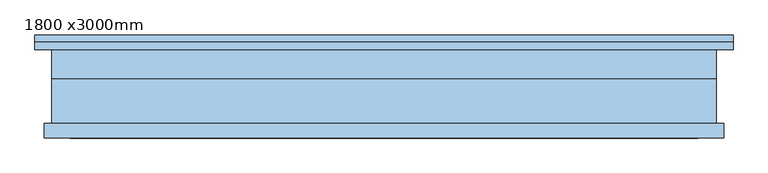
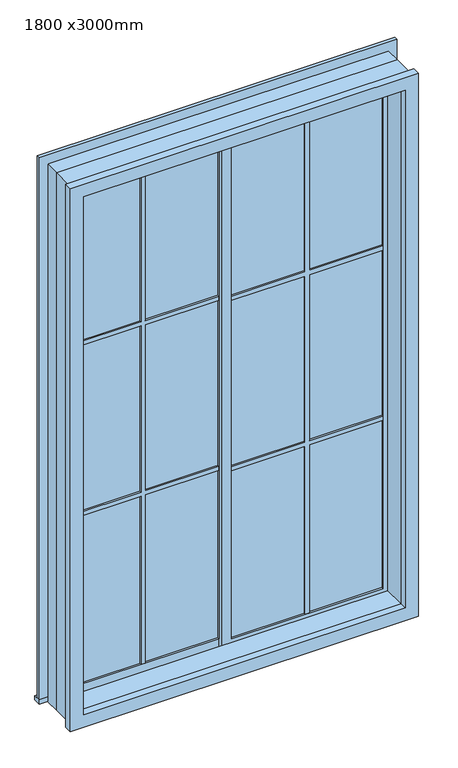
"""IFC4 building model written with IfcOpenShell, lengths in millimetres: window geometry, 推拉窗1 - 带贴面 : 1800 x3000mm."""

from ifc_helpers import new_model, si_unit, frame, origin, place, context, project, spatial, polyline, outline, extrude, source, transform, mapped, element, save


def window_1800_x3000mm_e18a544e(model_context):
    return source(origin(), model_context, "Body", "SweptSolid", [
        extrude(outline(polyline([(-815.475, 3.1265625), (-15.475, 3.1265625), (-15.475, -6.8734375), (-815.475, -6.8734375), (-815.475, 3.1265625)])), frame((0.0, 0.0, 975.0), z_axis=(0.0, 0.0, 1.0), x_axis=(1.0, 0.0, 0.0)), (0.0, 0.0, 1.0), 2850.0),
        extrude(outline(polyline([(34.525, -26.8734375), (834.525, -26.8734375), (834.525, -36.8734375), (34.525, -36.8734375), (34.525, -26.8734375)])), frame((0.0, 0.0, 975.0), z_axis=(0.0, 0.0, 1.0), x_axis=(1.0, 0.0, 0.0)), (0.0, 0.0, 1.0), 2850.0),
        extrude(outline(polyline([(2863.05, 423.525), (1935.05, 423.525), (1935.05, 34.525), (1913.05, 34.525), (1913.05, 423.525), (975.0, 423.525), (975.0, 445.525), (1913.05, 445.525), (1913.05, 834.525), (1936.95, 834.525), (1936.95, 445.525), (2863.05, 445.525), (2863.05, 834.525), (2886.95, 834.525), (2886.95, 445.525), (3825.0, 445.525), (3825.0, 423.525), (2886.95, 423.525), (2886.95, 34.525), (2863.05, 34.525), (2863.05, 423.525)])), frame((0.0, -46.8734375, 0.0), z_axis=(0.0, 1.0, 0.0), x_axis=(0.0, 0.0, 1.0)), (0.0, 0.0, 1.0), 30.0),
        extrude(outline(polyline([(3900.0, -890.475), (900.0, -890.475), (900.0, 909.525), (3900.0, 909.525), (3900.0, -890.475)]), holes=[polyline([(3845.0, 859.525), (955.0, 859.525), (955.0, -840.475), (3845.0, -840.475), (3845.0, 859.525)])]), frame((0.0, -166.8734375, 0.0), z_axis=(0.0, 1.0, 0.0), x_axis=(0.0, 0.0, 1.0)), (0.0, 0.0, 1.0), 120.0),
        extrude(outline(polyline([(975.0, -404.3625), (1913.8875, -404.3625), (1913.8875, -15.475), (1936.1125, -15.475), (1936.1125, -404.3625), (2863.8875, -404.3625), (2863.8875, -15.475), (2886.1125, -15.475), (2886.1125, -404.3625), (3825.0, -404.3625), (3825.0, -426.5875), (2886.1125, -426.5875), (2886.1125, -815.475), (2863.8875, -815.475), (2863.8875, -426.5875), (1936.1125, -426.5875), (1936.1125, -815.475), (1913.8875, -815.475), (1913.8875, -426.5875), (975.0, -426.5875), (975.0, -404.3625)])), frame((0.0, -16.8734375, 0.0), z_axis=(0.0, 1.0, 0.0), x_axis=(0.0, 0.0, 1.0)), (0.0, 0.0, 1.0), 30.0),
        extrude(outline(polyline([(925.0, 34.525), (3875.0, 34.525), (3875.0, -865.475), (925.0, -865.475), (925.0, 34.525)]), holes=[polyline([(975.0, -15.475), (975.0, -815.475), (3825.0, -815.475), (3825.0, -15.475), (975.0, -15.475)])]), frame((0.0, -16.8734375, 0.0), z_axis=(0.0, 1.0, 0.0), x_axis=(0.0, 0.0, 1.0)), (0.0, 0.0, 1.0), 30.0),
        extrude(outline(polyline([(3875.0, -15.475), (925.0, -15.475), (925.0, 884.525), (3875.0, 884.525), (3875.0, -15.475)]), holes=[polyline([(3825.0, 34.525), (3825.0, 834.525), (975.0, 834.525), (975.0, 34.525), (3825.0, 34.525)])]), frame((0.0, -46.8734375, 0.0), z_axis=(0.0, 1.0, 0.0), x_axis=(0.0, 0.0, 1.0)), (0.0, 0.0, 1.0), 30.0),
        extrude(outline(polyline([(3900.0, -890.475), (900.0, -890.475), (900.0, 909.525), (3900.0, 909.525), (3900.0, -890.475)]), holes=[polyline([(925.0, -865.475), (3875.0, -865.475), (3875.0, 884.525), (925.0, 884.525), (925.0, -865.475)])]), frame((0.0, -46.8734375, 0.0), z_axis=(0.0, 1.0, 0.0), x_axis=(0.0, 0.0, 1.0)), (0.0, 0.0, 1.0), 80.0),
        extrude(outline(polyline([(3915.0, -910.475), (885.0, -910.475), (885.0, 929.525), (3915.0, 929.525), (3915.0, -910.475)]), holes=[polyline([(955.0, 859.525), (955.0, -840.475), (3845.0, -840.475), (3845.0, 859.525), (955.0, 859.525)])]), frame((0.0, -206.8734375, 0.0), z_axis=(0.0, 1.0, 0.0), x_axis=(0.0, 0.0, 1.0)), (0.0, 0.0, 1.0), 40.0),
        extrude(outline(polyline([(-935.475, 73.1265625), (954.525, 73.1265625), (954.525, 33.1265625), (-935.475, 33.1265625), (-935.475, 73.1265625)])), frame((0.0, 0.0, 900.0), z_axis=(0.0, 0.0, 1.0), x_axis=(1.0, 0.0, 0.0)), (0.0, 0.0, 1.0), 25.0),
        extrude(outline(polyline([(925.0, 954.525), (3950.0, 954.525), (3950.0, -935.475), (925.0, -935.475), (925.0, -865.475), (3875.0, -865.475), (3875.0, 884.525), (925.0, 884.525), (925.0, 954.525)])), frame((0.0, 33.1265625, 0.0), z_axis=(0.0, 1.0, 0.0), x_axis=(0.0, 0.0, 1.0)), (0.0, 0.0, 1.0), 20.0),
    ])


if __name__ == "__main__":
    model = new_model("IFC4")
    model_context = context("Model", 3, world=origin())
    ifc_project = project(units=[si_unit("LENGTHUNIT", "METRE", prefix="MILLI")], contexts=[model_context])
    site = spatial("IfcSite", under=ifc_project)
    building = spatial("IfcBuilding", under=site)
    placement = place(None, origin())
    window_1800_x3000mm_shape = window_1800_x3000mm_e18a544e(model_context)
    element("IfcWindow", 1, ObjectType="推拉窗1 - 带贴面 : 1800 x3000mm", at=placement, inside=building, context=model_context, shape_type="MappedRepresentation", body=[
        mapped(window_1800_x3000mm_shape, transform((0.0, 0.0, 0.0), x_axis=(1.0, 0.0, 0.0), y_axis=(0.0, 1.0, 0.0), z_axis=(0.0, 0.0, 1.0))),
    ])
    save(model, "model.ifc")
